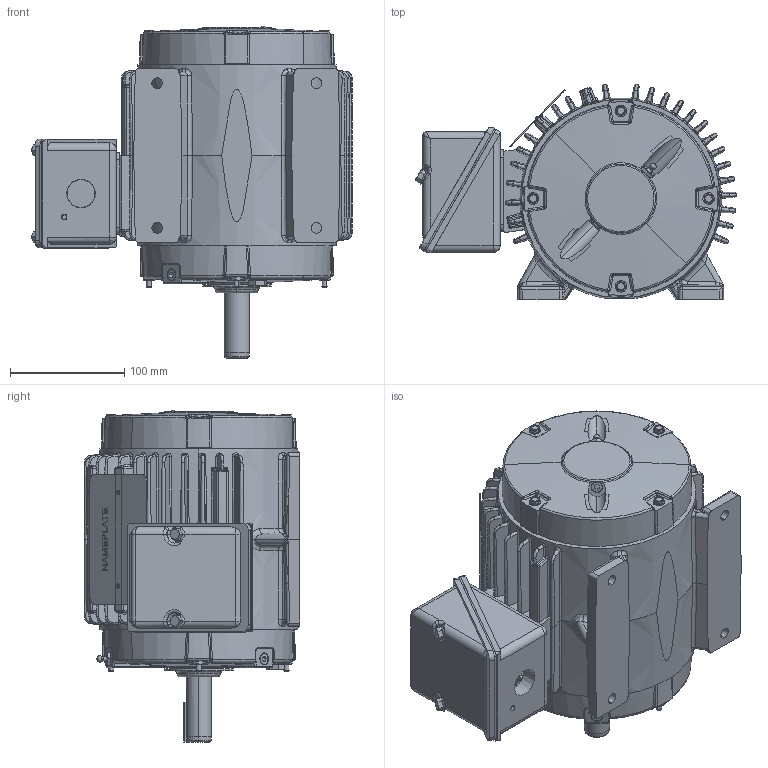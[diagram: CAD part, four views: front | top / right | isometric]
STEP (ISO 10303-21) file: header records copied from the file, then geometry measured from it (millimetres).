
FILE_DESCRIPTION (( 'STEP AP203' ), '1' );
FILE_NAME ('100658-625_F2_RevC.STEP', '2018-06-25T10:54:37', ( '' ), ( '' ), 'SwSTEP 2.0', 'SolidWorks 2015', '' );
FILE_SCHEMA (( 'CONFIG_CONTROL_DESIGN' ));
Length unit declared in the file: inch
Products named in the file (1): 100658-625_F2_RevC
Bounding box: 281.23 x 188.89 x 291.2 mm (x, y, z)
Volume: 3202123.1 mm3; surface area: 755171.8 mm2
Topology: 30 solids, 30 shells, 2705 faces, 6679 edges, 4018 vertices
Faces by surface type: bspline 968, plane 565, cylinder 535, cone 283, torus 257, sphere 97
Entity records: 125127 total; most frequent: CARTESIAN_POINT 69345, ORIENTED_EDGE 13186, DIRECTION 9672, EDGE_CURVE 6593, AXIS2_PLACEMENT_3D 4039, VERTEX_POINT 4002, EDGE_LOOP 2847, ADVANCED_FACE 2705
